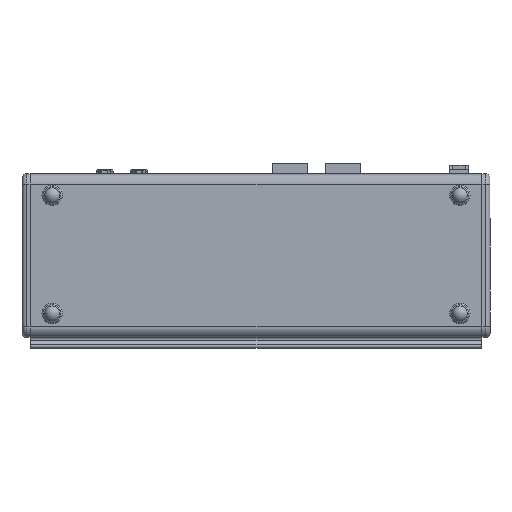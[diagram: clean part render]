
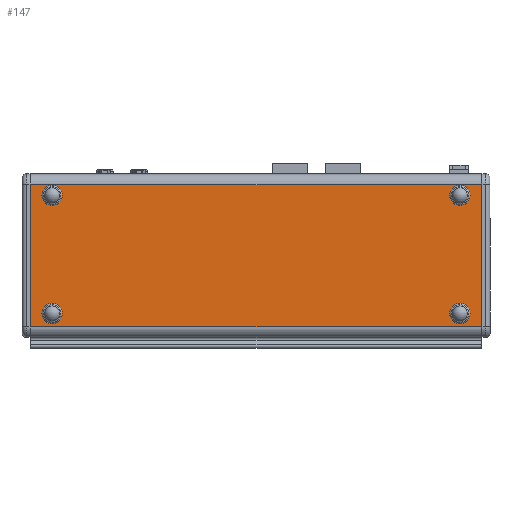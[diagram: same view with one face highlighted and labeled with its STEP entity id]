
A CAD part, front view. The second image highlights one B-rep face of the part: STEP entity #147.
In plain terms, the highlighted planar face has unit normal (0, -1, 0).
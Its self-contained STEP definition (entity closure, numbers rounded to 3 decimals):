
#147 = ADVANCED_FACE ( 'NONE', ( #45519 ), #15756, .T. ) ;
#1291 = DIRECTION ( 'NONE',  ( 0., -1., 0. ) ) ;
#2189 = VERTEX_POINT ( 'NONE', #28950 ) ;
#2354 = EDGE_CURVE ( 'NONE', #2189, #35457, #43471, .T. ) ;
#3820 = CARTESIAN_POINT ( 'NONE',  ( 105., -60., -5. ) ) ;
#4164 = LINE ( 'NONE', #35938, #32803 ) ;
#6923 = CARTESIAN_POINT ( 'NONE',  ( -105., -60., -5. ) ) ;
#9336 = EDGE_LOOP ( 'NONE', ( #28143, #32214, #9927, #16657 ) ) ;
#9608 = CARTESIAN_POINT ( 'NONE',  ( 3895., -60., -5. ) ) ;
#9927 = ORIENTED_EDGE ( 'NONE', *, *, #41332, .F. ) ;
#10284 = CARTESIAN_POINT ( 'NONE',  ( -105., -60., -71.15 ) ) ;
#10665 = DIRECTION ( 'NONE',  ( 0., 0., 1. ) ) ;
#15756 = PLANE ( 'NONE',  #18636 ) ;
#16657 = ORIENTED_EDGE ( 'NONE', *, *, #2354, .F. ) ;
#18636 = AXIS2_PLACEMENT_3D ( 'NONE', #41211, #1291, #37468 ) ;
#20515 = DIRECTION ( 'NONE',  ( -1., 0., 0. ) ) ;
#22729 = DIRECTION ( 'NONE',  ( 0., 0., 1. ) ) ;
#24105 = EDGE_CURVE ( 'NONE', #2189, #28609, #42557, .T. ) ;
#28143 = ORIENTED_EDGE ( 'NONE', *, *, #24105, .T. ) ;
#28609 = VERTEX_POINT ( 'NONE', #3820 ) ;
#28950 = CARTESIAN_POINT ( 'NONE',  ( 105., -60., -71.15 ) ) ;
#30545 = LINE ( 'NONE', #9608, #45524 ) ;
#32214 = ORIENTED_EDGE ( 'NONE', *, *, #46190, .T. ) ;
#32777 = VECTOR ( 'NONE', #22729, 1000. ) ;
#32803 = VECTOR ( 'NONE', #10665, 1000. ) ;
#33730 = CARTESIAN_POINT ( 'NONE',  ( 3895., -60., -71.15 ) ) ;
#35457 = VERTEX_POINT ( 'NONE', #10284 ) ;
#35938 = CARTESIAN_POINT ( 'NONE',  ( -105., -60., -5. ) ) ;
#37468 = DIRECTION ( 'NONE',  ( 1., 0., 0. ) ) ;
#37533 = CARTESIAN_POINT ( 'NONE',  ( 105., -60., -81.151 ) ) ;
#37667 = DIRECTION ( 'NONE',  ( -1., 0., 0. ) ) ;
#39101 = VERTEX_POINT ( 'NONE', #6923 ) ;
#41211 = CARTESIAN_POINT ( 'NONE',  ( 3895., -60., -5. ) ) ;
#41332 = EDGE_CURVE ( 'NONE', #35457, #39101, #4164, .T. ) ;
#42557 = LINE ( 'NONE', #37533, #32777 ) ;
#43471 = LINE ( 'NONE', #33730, #44670 ) ;
#44670 = VECTOR ( 'NONE', #37667, 1000. ) ;
#45519 = FACE_OUTER_BOUND ( 'NONE', #9336, .T. ) ;
#45524 = VECTOR ( 'NONE', #20515, 1000. ) ;
#46190 = EDGE_CURVE ( 'NONE', #28609, #39101, #30545, .T. ) ;
